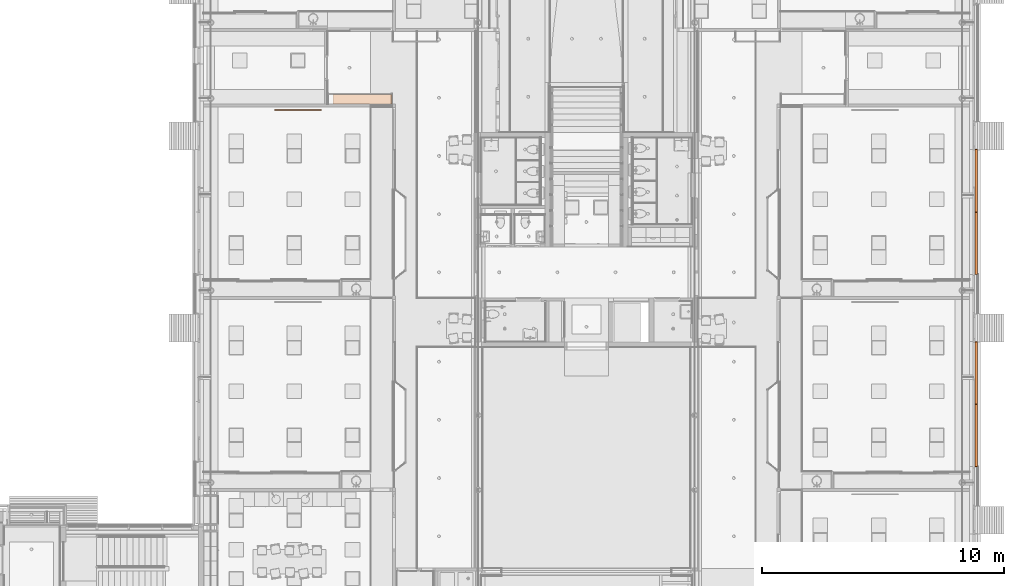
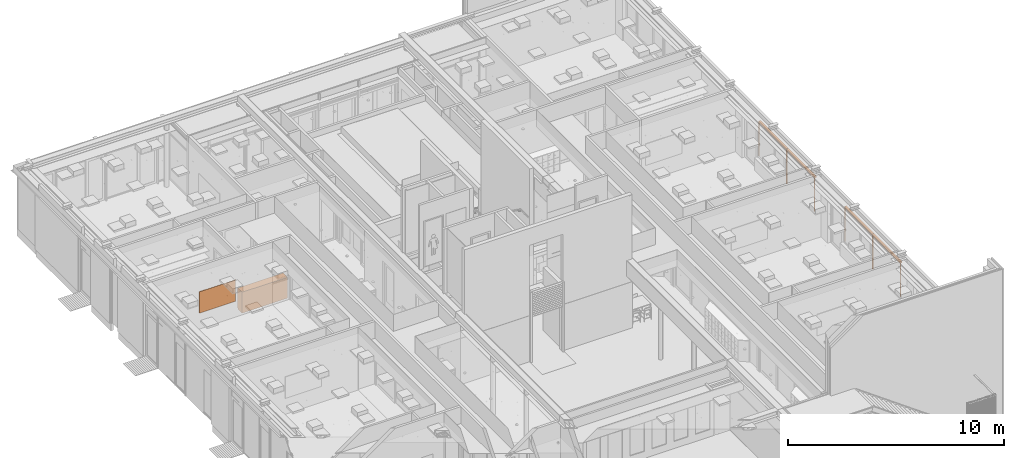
# One storey, part 335 of 347: 6 proxies.
"""IFC2X3 building model written with IfcOpenShell, lengths in millimetres."""

from ifc_helpers import new_model, entity, si_unit, converted_unit, derived_unit, money_unit, direction, frame, origin_with_axes, place, context, subcontext, project, spatial, open_shell, faceted_brep, surface_model, source, transform, mapped, type_object, type_shapes, element, save


model = new_model("IFC2X3")

# Units and contexts
model_context = context("Model", 3, precision=0.01, world=origin_with_axes(), true_north=direction((0.0, 1.0)))
plan_context = context("Plan", 3, precision=0.01, world=origin_with_axes(), true_north=direction((0.0, 1.0)))
body_context = subcontext(model_context, "Body", "Model", "MODEL_VIEW")
ifc_project = project(units=[si_unit("LENGTHUNIT", "METRE", prefix="MILLI"), si_unit("AREAUNIT", "SQUARE_METRE"), si_unit("VOLUMEUNIT", "CUBIC_METRE"), converted_unit("PLANEANGLEUNIT", "DEGREE", entity("IfcPlaneAngleMeasure", 0.0174532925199), si_unit("PLANEANGLEUNIT", "RADIAN"), dimensions=[0, 0, 0, 0, 0, 0, 0]), money_unit("EUR"), converted_unit("TIMEUNIT", "Year", entity("IfcTimeMeasure", 31556926.0), si_unit("TIMEUNIT", "SECOND"), dimensions=[0, 0, 1, 0, 0, 0, 0]), si_unit("MASSUNIT", "GRAM", prefix="KILO"), si_unit("THERMODYNAMICTEMPERATUREUNIT", "DEGREE_CELSIUS"), si_unit("LUMINOUSINTENSITYUNIT", "LUMEN"), si_unit("ENERGYUNIT", "JOULE", prefix="MEGA"), derived_unit("THERMALCONDUCTANCEUNIT", [(si_unit("POWERUNIT", "WATT"), 1), (si_unit("LENGTHUNIT", "METRE"), -1), (si_unit("THERMODYNAMICTEMPERATUREUNIT", "KELVIN"), -1)]), derived_unit("SPECIFICHEATCAPACITYUNIT", [(si_unit("ENERGYUNIT", "JOULE"), 1), (si_unit("MASSUNIT", "GRAM", prefix="KILO"), -1), (si_unit("THERMODYNAMICTEMPERATUREUNIT", "KELVIN"), -1)]), derived_unit("MASSDENSITYUNIT", [(si_unit("MASSUNIT", "GRAM", prefix="KILO"), 1), (si_unit("VOLUMEUNIT", "CUBIC_METRE"), -1)])], contexts=[model_context, plan_context])

# Site, building, storey
site_placement = place(None, origin_with_axes())
site = spatial("IfcSite", under=ifc_project, at=site_placement, Name="Site", CompositionType="ELEMENT")
building_placement = place(site_placement, origin_with_axes())
building = spatial("IfcBuilding", under=site, at=building_placement, Name="Naam gebouw", CompositionType="ELEMENT")
storey_placement = place(building_placement, origin_with_axes())
storey = spatial("IfcBuildingStorey", under=building, at=storey_placement, Name="begane grond", CompositionType="ELEMENT", Elevation=0.0)

# Proxies
building_element_proxy_type_1 = type_object("IfcBuildingElementProxyType", Name="Digitaal bord 25", PredefinedType="NOTDEFINED")
shared_shape_1 = source(origin_with_axes(), body_context, "Body", "SurfaceModel", [
    faceted_brep([(0.0, 0.0, 1000.0), (1930.0, 0.0, 1000.0), (1930.0, -30.0, 1000.0), (0.0, -30.0, 1000.0), (0.0, 0.0, 2185.0), (4.3933982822, 0.0, 2195.60660172), (15.0, 0.0, 2200.0), (1915.0, 0.0, 2200.0), (1925.60660172, 0.0, 2195.60660172), (1930.0, 0.0, 2185.0), (20.0, 0.0, 1025.0), (1910.0, 0.0, 1025.0), (1910.0, 0.0, 2180.0), (20.0, 0.0, 2180.0), (1930.0, -30.0, 2185.0), (1925.60660172, -30.0, 2195.60660172), (1915.0, -30.0, 2200.0), (15.0, -30.0, 2200.0), (4.3933982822, -30.0, 2195.60660172), (0.0, -30.0, 2185.0), (20.0, -30.0, 1025.0), (20.0, -30.0, 2180.0), (1910.0, -30.0, 2180.0), (1910.0, -30.0, 1025.0)], [[[0, 1, 2, 3]], [[0, 4, 5, 6, 7, 8, 9, 1], [10, 11, 12, 13]], [[1, 9, 14, 2]], [[3, 2, 14, 15, 16, 17, 18, 19], [20, 21, 22, 23]], [[4, 0, 3, 19]], [[5, 4, 19, 18]], [[6, 5, 18, 17]], [[7, 6, 17, 16]], [[8, 7, 16, 15]], [[9, 8, 15, 14]], [[11, 10, 20, 23]], [[12, 11, 23, 22]], [[13, 12, 22, 21]], [[10, 13, 21, 20]]]),
    faceted_brep([(20.0, 0.0, 1025.0), (1910.0, 0.0, 1025.0), (1910.0, -29.0, 1025.0), (20.0, -29.0, 1025.0), (20.0, 0.0, 2180.0), (1910.0, 0.0, 2180.0), (1910.0, -29.0, 2180.0), (20.0, -29.0, 2180.0)], [[[0, 1, 2, 3]], [[0, 4, 5, 1]], [[1, 5, 6, 2]], [[3, 2, 6, 7]], [[4, 0, 3, 7]], [[5, 4, 7, 6]]]),
    surface_model("IfcShellBasedSurfaceModel", [(20.0, -30.0, 1025.0), (1910.0, -30.0, 1025.0), (1910.0, -30.0, 2180.0), (20.0, -30.0, 2180.0)], [open_shell([[[0, 1, 2, 3]]])]),
])
type_shapes(building_element_proxy_type_1, [shared_shape_1])
proxy_1_placement = place(storey_placement, frame((27212.556147, 35737.5, 0.0), z_axis=(0.0, 0.0, 1.0), x_axis=(1.0, 0.0, 0.0)))
element("IfcBuildingElementProxy", 1, at=proxy_1_placement, inside=storey, type_object=building_element_proxy_type_1, Name="82_DiGi-bord", context=body_context, shape_type="MappedRepresentation", body=[
    mapped(shared_shape_1, transform((0.0, 0.0, 0.0))),
])
building_element_proxy_type_2 = type_object("IfcBuildingElementProxyType", Name="Screen 25 KM", PredefinedType="NOTDEFINED")
shared_shape_2 = source(origin_with_axes(), body_context, "Body", "SurfaceModel", [
    faceted_brep([(0.0, 0.0, 0.0), (0.0, 0.0, 1885.0), (0.0, -28.0, 1885.0), (0.0, -28.0, 0.0), (-38.0, 0.0, 0.0), (-38.0, 0.0, 1885.0), (-38.0, -4.0, 1885.0), (-35.0, -4.0, 1885.0), (-35.0, -3.0, 1885.0), (-3.0, -3.0, 1885.0), (-3.0, -25.0, 1885.0), (-35.0, -25.0, 1885.0), (-35.0, -24.0, 1885.0), (-38.0, -24.0, 1885.0), (-38.0, -28.0, 1885.0), (-38.0, -28.0, 0.0), (-38.0, -24.0, 0.0), (-35.0, -24.0, 0.0), (-35.0, -25.0, 0.0), (-3.0, -25.0, 0.0), (-3.0, -3.0, 0.0), (-35.0, -3.0, 0.0), (-35.0, -4.0, 0.0), (-38.0, -4.0, 0.0)], [[[0, 1, 2, 3]], [[4, 5, 1, 0]], [[1, 5, 6, 7, 8, 9, 10, 11, 12, 13, 14, 2]], [[3, 2, 14, 15]], [[0, 3, 15, 16, 17, 18, 19, 20, 21, 22, 23, 4]], [[23, 6, 5, 4]], [[22, 7, 6, 23]], [[21, 8, 7, 22]], [[20, 9, 8, 21]], [[19, 10, 9, 20]], [[18, 11, 10, 19]], [[17, 12, 11, 18]], [[16, 13, 12, 17]], [[15, 14, 13, 16]]]),
    faceted_brep([(-2582.00000015, 0.0, 0.0), (-2582.00000015, -28.0, 0.0), (-2582.00000015, -28.0, 1885.0), (-2582.00000015, 0.0, 1885.0), (-2544.00000015, 0.0, 0.0), (-2544.00000015, -4.0, 0.0), (-2547.00000015, -4.0, 0.0), (-2547.00000015, -3.0, 0.0), (-2579.00000015, -3.0, 0.0), (-2579.00000015, -25.0, 0.0), (-2547.00000015, -25.0, 0.0), (-2547.00000015, -24.0, 0.0), (-2544.00000015, -24.0, 0.0), (-2544.00000015, -28.0, 0.0), (-2544.00000015, -28.0, 1885.0), (-2544.00000015, -24.0, 1885.0), (-2547.00000015, -24.0, 1885.0), (-2547.00000015, -25.0, 1885.0), (-2579.00000015, -25.0, 1885.0), (-2579.00000015, -3.0, 1885.0), (-2547.00000015, -3.0, 1885.0), (-2547.00000015, -4.0, 1885.0), (-2544.00000015, -4.0, 1885.0), (-2544.00000015, 0.0, 1885.0)], [[[0, 1, 2, 3]], [[0, 4, 5, 6, 7, 8, 9, 10, 11, 12, 13, 1]], [[1, 13, 14, 2]], [[3, 2, 14, 15, 16, 17, 18, 19, 20, 21, 22, 23]], [[4, 0, 3, 23]], [[5, 4, 23, 22]], [[6, 5, 22, 21]], [[7, 6, 21, 20]], [[8, 7, 20, 19]], [[9, 8, 19, 18]], [[10, 9, 18, 17]], [[11, 10, 17, 16]], [[12, 11, 16, 15]], [[13, 12, 15, 14]]]),
    surface_model("IfcShellBasedSurfaceModel", [(0.0, 0.0, 1980.0), (0.0, -95.0, 1980.0), (0.0, -95.0, 1885.0), (0.0, 0.0, 1885.0)], [open_shell([[[0, 1, 2, 3]]])]),
    surface_model("IfcShellBasedSurfaceModel", [(-0.01, 0.0, 1980.0), (-2581.99000015, 0.0, 1980.0), (-2581.99000015, -95.0, 1980.0), (-0.00999999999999, -95.0, 1980.0), (-0.01, 0.0, 1888.0), (-2581.99000015, 0.0, 1888.0), (-2581.99000015, -6.0, 1888.0), (-2581.99000015, -6.0, 1891.0), (-2581.99000015, -3.0, 1891.0), (-2581.99000015, -3.0, 1977.0), (-2581.99000015, -92.0, 1977.0), (-2581.99000015, -92.0, 1888.0), (-2581.99000015, -28.0, 1888.0), (-2581.99000015, -28.0, 1882.0), (-2581.99000015, -31.0, 1882.0), (-2581.99000015, -31.0, 1885.0), (-2581.99000015, -95.0, 1885.0), (-0.01, -95.0, 1885.0), (-0.01, -31.0, 1885.0), (-0.01, -31.0, 1882.0), (-0.01, -28.0, 1882.0), (-0.01, -28.0, 1888.0), (-0.01, -92.0, 1888.0), (-0.00999999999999, -92.0, 1977.0), (-0.01, -3.0, 1977.0), (-0.01, -3.0, 1891.0), (-0.01, -6.0, 1891.0), (-0.01, -6.0, 1888.0)], [open_shell([[[0, 1, 2, 3]], [[4, 5, 1, 0]], [[1, 5, 6, 7, 8, 9, 10, 11, 12, 13, 14, 15, 16, 2]], [[3, 2, 16, 17]], [[0, 3, 17, 18, 19, 20, 21, 22, 23, 24, 25, 26, 27, 4]], [[19, 14, 13, 20]], [[18, 15, 14, 19]], [[17, 16, 15, 18]]])]),
    surface_model("IfcShellBasedSurfaceModel", [(-2581.99000015, 0.0, 1980.0), (-2581.99000015, -95.0, 1980.0), (-2581.99000015, -95.0, 1885.0), (-2581.99000015, 0.0, 1885.0)], [open_shell([[[0, 1, 2, 3]]])]),
])
for number, where, z_axis, x_axis, name in (
    (2, (56108.0000442, 34094.5, 720.0), (0.0, 0.0, 1.0), (0.0, 1.0, 0.0), "_78 garderobe"),
    (3, (56108.0000442, 26169.5, 720.0), (0.0, 0.0, 1.0), (0.0, 1.0, 0.0), "_78 garderobe"),
):
    element("IfcBuildingElementProxy", number, at=place(storey_placement, frame(where, z_axis=z_axis, x_axis=x_axis)), inside=storey, type_object=building_element_proxy_type_2, Name=name, context=body_context, shape_type="MappedRepresentation", body=[
        mapped(shared_shape_2, transform((0.0, 0.0, 0.0))),
    ])
shared_shape_3 = source(origin_with_axes(), body_context, "Body", "SurfaceModel", [
    faceted_brep([(0.0, 0.0, 0.0), (0.0, 0.0, 1885.0), (0.0, -28.0, 1885.0), (0.0, -28.0, 0.0), (-38.0, 0.0, 0.0), (-38.0, 0.0, 1885.0), (-38.0, -4.0, 1885.0), (-35.0, -4.0, 1885.0), (-35.0, -3.0, 1885.0), (-3.0, -3.0, 1885.0), (-3.0, -25.0, 1885.0), (-35.0, -25.0, 1885.0), (-35.0, -24.0, 1885.0), (-38.0, -24.0, 1885.0), (-38.0, -28.0, 1885.0), (-38.0, -28.0, 0.0), (-38.0, -24.0, 0.0), (-35.0, -24.0, 0.0), (-35.0, -25.0, 0.0), (-3.0, -25.0, 0.0), (-3.0, -3.0, 0.0), (-35.0, -3.0, 0.0), (-35.0, -4.0, 0.0), (-38.0, -4.0, 0.0)], [[[0, 1, 2, 3]], [[4, 5, 1, 0]], [[1, 5, 6, 7, 8, 9, 10, 11, 12, 13, 14, 2]], [[3, 2, 14, 15]], [[0, 3, 15, 16, 17, 18, 19, 20, 21, 22, 23, 4]], [[23, 6, 5, 4]], [[22, 7, 6, 23]], [[21, 8, 7, 22]], [[20, 9, 8, 21]], [[19, 10, 9, 20]], [[18, 11, 10, 19]], [[17, 12, 11, 18]], [[16, 13, 12, 17]], [[15, 14, 13, 16]]]),
    faceted_brep([(-2575.0, 0.0, 0.0), (-2575.0, -28.0, 0.0), (-2575.0, -28.0, 1885.0), (-2575.0, 0.0, 1885.0), (-2537.0, 0.0, 0.0), (-2537.0, -4.0, 0.0), (-2540.0, -4.0, 0.0), (-2540.0, -3.0, 0.0), (-2572.0, -3.0, 0.0), (-2572.0, -25.0, 0.0), (-2540.0, -25.0, 0.0), (-2540.0, -24.0, 0.0), (-2537.0, -24.0, 0.0), (-2537.0, -28.0, 0.0), (-2537.0, -28.0, 1885.0), (-2537.0, -24.0, 1885.0), (-2540.0, -24.0, 1885.0), (-2540.0, -25.0, 1885.0), (-2572.0, -25.0, 1885.0), (-2572.0, -3.0, 1885.0), (-2540.0, -3.0, 1885.0), (-2540.0, -4.0, 1885.0), (-2537.0, -4.0, 1885.0), (-2537.0, 0.0, 1885.0)], [[[0, 1, 2, 3]], [[0, 4, 5, 6, 7, 8, 9, 10, 11, 12, 13, 1]], [[1, 13, 14, 2]], [[3, 2, 14, 15, 16, 17, 18, 19, 20, 21, 22, 23]], [[4, 0, 3, 23]], [[5, 4, 23, 22]], [[6, 5, 22, 21]], [[7, 6, 21, 20]], [[8, 7, 20, 19]], [[9, 8, 19, 18]], [[10, 9, 18, 17]], [[11, 10, 17, 16]], [[12, 11, 16, 15]], [[13, 12, 15, 14]]]),
    surface_model("IfcShellBasedSurfaceModel", [(0.0, 0.0, 1980.0), (0.0, -95.0, 1980.0), (0.0, -95.0, 1885.0), (0.0, 0.0, 1885.0)], [open_shell([[[0, 1, 2, 3]]])]),
    surface_model("IfcShellBasedSurfaceModel", [(-0.01, 0.0, 1980.0), (-2574.99, 0.0, 1980.0), (-2574.99, -95.0, 1980.0), (-0.00999999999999, -95.0, 1980.0), (-0.01, 0.0, 1888.0), (-2574.99, 0.0, 1888.0), (-2574.99, -6.0, 1888.0), (-2574.99, -6.0, 1891.0), (-2574.99, -3.0, 1891.0), (-2574.99, -3.0, 1977.0), (-2574.99, -92.0, 1977.0), (-2574.99, -92.0, 1888.0), (-2574.99, -28.0, 1888.0), (-2574.99, -28.0, 1882.0), (-2574.99, -31.0, 1882.0), (-2574.99, -31.0, 1885.0), (-2574.99, -95.0, 1885.0), (-0.01, -95.0, 1885.0), (-0.01, -31.0, 1885.0), (-0.01, -31.0, 1882.0), (-0.01, -28.0, 1882.0), (-0.01, -28.0, 1888.0), (-0.01, -92.0, 1888.0), (-0.00999999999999, -92.0, 1977.0), (-0.01, -3.0, 1977.0), (-0.01, -3.0, 1891.0), (-0.01, -6.0, 1891.0), (-0.01, -6.0, 1888.0)], [open_shell([[[0, 1, 2, 3]], [[4, 5, 1, 0]], [[1, 5, 6, 7, 8, 9, 10, 11, 12, 13, 14, 15, 16, 2]], [[3, 2, 16, 17]], [[0, 3, 17, 18, 19, 20, 21, 22, 23, 24, 25, 26, 27, 4]], [[19, 14, 13, 20]], [[18, 15, 14, 19]], [[17, 16, 15, 18]]])]),
    surface_model("IfcShellBasedSurfaceModel", [(-2574.99, 0.0, 1980.0), (-2574.99, -95.0, 1980.0), (-2574.99, -95.0, 1885.0), (-2574.99, 0.0, 1885.0)], [open_shell([[[0, 1, 2, 3]]])]),
])
type_shapes(building_element_proxy_type_2, [shared_shape_2, shared_shape_3])
for number, where, z_axis, x_axis, name in (
    (4, (56108.0000442, 31512.4999998, 720.0), (0.0, 0.0, 1.0), (0.0, 1.0, 0.0), "_78 garderobe"),
    (5, (56108.0000442, 23587.4999998, 720.0), (0.0, 0.0, 1.0), (0.0, 1.0, 0.0), "_78 garderobe"),
):
    element("IfcBuildingElementProxy", number, at=place(storey_placement, frame(where, z_axis=z_axis, x_axis=x_axis)), inside=storey, type_object=building_element_proxy_type_2, Name=name, context=body_context, shape_type="MappedRepresentation", body=[
        mapped(shared_shape_3, transform((0.0, 0.0, 0.0))),
    ])
building_element_proxy_type_3 = type_object("IfcBuildingElementProxyType", Name="Kast modulair 25", PredefinedType="NOTDEFINED")
shared_shape_4 = source(origin_with_axes(), body_context, "Body", "Brep", [
    faceted_brep([(0.0, 10.0, 0.0), (2418.0, 10.0, 0.0), (2418.0, 10.0, 50.0), (0.0, 10.0, 50.0), (0.0, 400.000014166, 0.0), (2418.0, 400.000014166, 0.0), (2418.0, 400.000014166, 50.0), (0.0, 400.000014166, 50.0)], [[[0, 1, 2, 3]], [[0, 4, 5, 1]], [[1, 5, 6, 2]], [[3, 2, 6, 7]], [[4, 0, 3, 7]], [[5, 4, 7, 6]]]),
    faceted_brep([(18.0, 400.000014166, 68.0), (2400.0, 400.000014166, 68.0), (2400.0, 382.000014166, 68.0), (18.0, 382.000014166, 68.0), (18.0, 400.000014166, 1160.0), (2400.0, 400.000014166, 1160.0), (2400.0, 400.000014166, 790.0), (2400.0, 400.000014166, 420.0), (2400.0, 382.000014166, 420.0), (2400.0, 382.000014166, 790.0), (2400.0, 382.000014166, 1160.0), (18.0, 382.000014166, 1160.0)], [[[0, 1, 2, 3]], [[0, 4, 5, 6, 7, 1]], [[1, 7, 8, 2]], [[3, 2, 8, 9, 10, 11]], [[4, 0, 3, 11]], [[5, 4, 11, 10]], [[6, 5, 10, 9]], [[7, 6, 9, 8]]]),
    faceted_brep([(2418.0, 0.0, 50.0), (0.0, 0.0, 50.0), (0.0, 400.000014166, 50.0), (2418.0, 400.000014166, 50.0), (2418.0, 0.0, 68.0), (0.0, 0.0, 68.0), (0.0, 400.000014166, 68.0), (2418.0, 400.000014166, 68.0)], [[[0, 1, 2, 3]], [[1, 0, 4, 5]], [[2, 1, 5, 6]], [[3, 2, 6, 7]], [[0, 3, 7, 4]], [[5, 4, 7, 6]]]),
    faceted_brep([(18.0, 0.0, 68.0), (0.0, 0.0, 68.0), (0.0, 400.000014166, 68.0), (18.0, 400.000014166, 68.0), (18.0, 0.0, 420.0), (0.0, 0.0, 420.0), (0.0, 400.000014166, 420.0), (18.0, 400.000014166, 420.0)], [[[0, 1, 2, 3]], [[1, 0, 4, 5]], [[2, 1, 5, 6]], [[3, 2, 6, 7]], [[0, 3, 7, 4]], [[5, 4, 7, 6]]]),
    faceted_brep([(318.0, 0.0, 68.0), (300.0, 0.0, 68.0), (300.0, 382.000014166, 68.0), (318.0, 382.000014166, 68.0), (318.0, 0.0, 420.0), (300.0, 0.0, 420.0), (300.0, 382.000014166, 420.0), (318.0, 382.000014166, 420.0)], [[[0, 1, 2, 3]], [[1, 0, 4, 5]], [[2, 1, 5, 6]], [[3, 2, 6, 7]], [[0, 3, 7, 4]], [[5, 4, 7, 6]]]),
    faceted_brep([(618.0, 0.0, 68.0), (600.0, 0.0, 68.0), (600.0, 382.000014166, 68.0), (618.0, 382.000014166, 68.0), (618.0, 0.0, 420.0), (600.0, 0.0, 420.0), (600.0, 382.000014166, 420.0), (618.0, 382.000014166, 420.0)], [[[0, 1, 2, 3]], [[1, 0, 4, 5]], [[2, 1, 5, 6]], [[3, 2, 6, 7]], [[0, 3, 7, 4]], [[5, 4, 7, 6]]]),
    faceted_brep([(918.0, 0.0, 68.0), (900.0, 0.0, 68.0), (900.0, 382.000014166, 68.0), (918.0, 382.000014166, 68.0), (918.0, 0.0, 420.0), (900.0, 0.0, 420.0), (900.0, 382.000014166, 420.0), (918.0, 382.000014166, 420.0)], [[[0, 1, 2, 3]], [[1, 0, 4, 5]], [[2, 1, 5, 6]], [[3, 2, 6, 7]], [[0, 3, 7, 4]], [[5, 4, 7, 6]]]),
    faceted_brep([(1218.0, 0.0, 68.0), (1200.0, 0.0, 68.0), (1200.0, 382.000014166, 68.0), (1218.0, 382.000014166, 68.0), (1218.0, 0.0, 420.0), (1200.0, 0.0, 420.0), (1200.0, 382.000014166, 420.0), (1218.0, 382.000014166, 420.0)], [[[0, 1, 2, 3]], [[1, 0, 4, 5]], [[2, 1, 5, 6]], [[3, 2, 6, 7]], [[0, 3, 7, 4]], [[5, 4, 7, 6]]]),
    faceted_brep([(1518.0, 0.0, 68.0), (1500.0, 0.0, 68.0), (1500.0, 382.000014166, 68.0), (1518.0, 382.000014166, 68.0), (1518.0, 0.0, 420.0), (1500.0, 0.0, 420.0), (1500.0, 382.000014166, 420.0), (1518.0, 382.000014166, 420.0)], [[[0, 1, 2, 3]], [[1, 0, 4, 5]], [[2, 1, 5, 6]], [[3, 2, 6, 7]], [[0, 3, 7, 4]], [[5, 4, 7, 6]]]),
    faceted_brep([(1818.0, 0.0, 68.0), (1800.0, 0.0, 68.0), (1800.0, 382.000014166, 68.0), (1818.0, 382.000014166, 68.0), (1818.0, 0.0, 420.0), (1800.0, 0.0, 420.0), (1800.0, 382.000014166, 420.0), (1818.0, 382.000014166, 420.0)], [[[0, 1, 2, 3]], [[1, 0, 4, 5]], [[2, 1, 5, 6]], [[3, 2, 6, 7]], [[0, 3, 7, 4]], [[5, 4, 7, 6]]]),
    faceted_brep([(2118.0, 0.0, 68.0), (2100.0, 0.0, 68.0), (2100.0, 382.000014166, 68.0), (2118.0, 382.000014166, 68.0), (2118.0, 0.0, 420.0), (2100.0, 0.0, 420.0), (2100.0, 382.000014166, 420.0), (2118.0, 382.000014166, 420.0)], [[[0, 1, 2, 3]], [[1, 0, 4, 5]], [[2, 1, 5, 6]], [[3, 2, 6, 7]], [[0, 3, 7, 4]], [[5, 4, 7, 6]]]),
    faceted_brep([(2418.0, 0.0, 68.0), (2400.0, 0.0, 68.0), (2400.0, 400.000014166, 68.0), (2418.0, 400.000014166, 68.0), (2418.0, 0.0, 420.0), (2400.0, 0.0, 420.0), (2400.0, 400.000014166, 420.0), (2418.0, 400.000014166, 420.0)], [[[0, 1, 2, 3]], [[1, 0, 4, 5]], [[2, 1, 5, 6]], [[3, 2, 6, 7]], [[0, 3, 7, 4]], [[5, 4, 7, 6]]]),
    faceted_brep([(2400.0, 400.000014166, 420.0), (2400.0, 400.000014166, 438.0), (2418.0, 400.000014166, 438.0), (2418.0, 400.000014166, 420.0), (2400.0, 382.000014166, 438.0), (2400.0, 382.000014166, 420.0), (18.0, 382.000014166, 438.0), (18.0, 400.000014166, 438.0), (0.0, 400.000014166, 438.0), (0.0, 0.0, 438.0), (2418.0, 0.0, 438.0), (2418.0, 0.0, 420.0), (0.0, 0.0, 420.0), (0.0, 400.000014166, 420.0), (18.0, 400.000014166, 420.0), (18.0, 382.000014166, 420.0)], [[[0, 1, 2, 3]], [[4, 1, 0, 5]], [[6, 7, 8, 9, 10, 2, 1, 4]], [[3, 2, 10, 11]], [[5, 0, 3, 11, 12, 13, 14, 15]], [[6, 4, 5, 15]], [[14, 7, 6, 15]], [[7, 14, 13, 8]], [[12, 9, 8, 13]], [[11, 10, 9, 12]]]),
    faceted_brep([(2400.0, 400.000014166, 790.0), (2400.0, 400.000014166, 808.0), (2418.0, 400.000014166, 808.0), (2418.0, 400.000014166, 790.0), (2400.0, 382.000014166, 808.0), (2400.0, 382.000014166, 790.0), (18.0, 382.000014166, 808.0), (18.0, 400.000014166, 808.0), (0.0, 400.000014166, 808.0), (0.0, 0.0, 808.0), (2418.0, 0.0, 808.0), (2418.0, 0.0, 790.0), (0.0, 0.0, 790.0), (0.0, 400.000014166, 790.0), (18.0, 400.000014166, 790.0), (18.0, 382.000014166, 790.0)], [[[0, 1, 2, 3]], [[4, 1, 0, 5]], [[6, 7, 8, 9, 10, 2, 1, 4]], [[3, 2, 10, 11]], [[5, 0, 3, 11, 12, 13, 14, 15]], [[6, 4, 5, 15]], [[14, 7, 6, 15]], [[7, 14, 13, 8]], [[12, 9, 8, 13]], [[11, 10, 9, 12]]]),
    faceted_brep([(18.0, 0.0, 438.0), (0.0, 0.0, 438.0), (0.0, 400.000014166, 438.0), (18.0, 400.000014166, 438.0), (18.0, 0.0, 790.0), (0.0, 0.0, 790.0), (0.0, 400.000014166, 790.0), (18.0, 400.000014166, 790.0)], [[[0, 1, 2, 3]], [[1, 0, 4, 5]], [[2, 1, 5, 6]], [[3, 2, 6, 7]], [[0, 3, 7, 4]], [[5, 4, 7, 6]]]),
    faceted_brep([(318.0, 0.0, 438.0), (300.0, 0.0, 438.0), (300.0, 382.000014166, 438.0), (318.0, 382.000014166, 438.0), (318.0, 0.0, 790.0), (300.0, 0.0, 790.0), (300.0, 382.000014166, 790.0), (318.0, 382.000014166, 790.0)], [[[0, 1, 2, 3]], [[1, 0, 4, 5]], [[2, 1, 5, 6]], [[3, 2, 6, 7]], [[0, 3, 7, 4]], [[5, 4, 7, 6]]]),
    faceted_brep([(618.0, 0.0, 438.0), (600.0, 0.0, 438.0), (600.0, 382.000014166, 438.0), (618.0, 382.000014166, 438.0), (618.0, 0.0, 790.0), (600.0, 0.0, 790.0), (600.0, 382.000014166, 790.0), (618.0, 382.000014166, 790.0)], [[[0, 1, 2, 3]], [[1, 0, 4, 5]], [[2, 1, 5, 6]], [[3, 2, 6, 7]], [[0, 3, 7, 4]], [[5, 4, 7, 6]]]),
    faceted_brep([(918.0, 0.0, 438.0), (900.0, 0.0, 438.0), (900.0, 382.000014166, 438.0), (918.0, 382.000014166, 438.0), (918.0, 0.0, 790.0), (900.0, 0.0, 790.0), (900.0, 382.000014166, 790.0), (918.0, 382.000014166, 790.0)], [[[0, 1, 2, 3]], [[1, 0, 4, 5]], [[2, 1, 5, 6]], [[3, 2, 6, 7]], [[0, 3, 7, 4]], [[5, 4, 7, 6]]]),
    faceted_brep([(1218.0, 0.0, 438.0), (1200.0, 0.0, 438.0), (1200.0, 382.000014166, 438.0), (1218.0, 382.000014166, 438.0), (1218.0, 0.0, 790.0), (1200.0, 0.0, 790.0), (1200.0, 382.000014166, 790.0), (1218.0, 382.000014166, 790.0)], [[[0, 1, 2, 3]], [[1, 0, 4, 5]], [[2, 1, 5, 6]], [[3, 2, 6, 7]], [[0, 3, 7, 4]], [[5, 4, 7, 6]]]),
    faceted_brep([(1518.0, 0.0, 438.0), (1500.0, 0.0, 438.0), (1500.0, 382.000014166, 438.0), (1518.0, 382.000014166, 438.0), (1518.0, 0.0, 790.0), (1500.0, 0.0, 790.0), (1500.0, 382.000014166, 790.0), (1518.0, 382.000014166, 790.0)], [[[0, 1, 2, 3]], [[1, 0, 4, 5]], [[2, 1, 5, 6]], [[3, 2, 6, 7]], [[0, 3, 7, 4]], [[5, 4, 7, 6]]]),
    faceted_brep([(1818.0, 0.0, 438.0), (1800.0, 0.0, 438.0), (1800.0, 382.000014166, 438.0), (1818.0, 382.000014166, 438.0), (1818.0, 0.0, 790.0), (1800.0, 0.0, 790.0), (1800.0, 382.000014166, 790.0), (1818.0, 382.000014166, 790.0)], [[[0, 1, 2, 3]], [[1, 0, 4, 5]], [[2, 1, 5, 6]], [[3, 2, 6, 7]], [[0, 3, 7, 4]], [[5, 4, 7, 6]]]),
    faceted_brep([(2118.0, 0.0, 438.0), (2100.0, 0.0, 438.0), (2100.0, 382.000014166, 438.0), (2118.0, 382.000014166, 438.0), (2118.0, 0.0, 790.0), (2100.0, 0.0, 790.0), (2100.0, 382.000014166, 790.0), (2118.0, 382.000014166, 790.0)], [[[0, 1, 2, 3]], [[1, 0, 4, 5]], [[2, 1, 5, 6]], [[3, 2, 6, 7]], [[0, 3, 7, 4]], [[5, 4, 7, 6]]]),
    faceted_brep([(2418.0, 0.0, 438.0), (2400.0, 0.0, 438.0), (2400.0, 400.000014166, 438.0), (2418.0, 400.000014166, 438.0), (2418.0, 0.0, 790.0), (2400.0, 0.0, 790.0), (2400.0, 400.000014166, 790.0), (2418.0, 400.000014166, 790.0)], [[[0, 1, 2, 3]], [[1, 0, 4, 5]], [[2, 1, 5, 6]], [[3, 2, 6, 7]], [[0, 3, 7, 4]], [[5, 4, 7, 6]]]),
    faceted_brep([(0.0, 0.0, 1160.0), (2418.0, 0.0, 1160.0), (2418.0, 0.0, 1178.0), (0.0, 0.0, 1178.0), (0.0, 400.000014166, 1160.0), (2418.0, 400.000014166, 1160.0), (2418.0, 400.000014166, 1178.0), (0.0, 400.000014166, 1178.0)], [[[0, 1, 2, 3]], [[0, 4, 5, 1]], [[1, 5, 6, 2]], [[3, 2, 6, 7]], [[4, 0, 3, 7]], [[5, 4, 7, 6]]]),
    faceted_brep([(18.0, 0.0, 808.0), (0.0, 0.0, 808.0), (0.0, 400.000014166, 808.0), (18.0, 400.000014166, 808.0), (18.0, 0.0, 1160.0), (0.0, 0.0, 1160.0), (0.0, 400.000014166, 1160.0), (18.0, 400.000014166, 1160.0)], [[[0, 1, 2, 3]], [[1, 0, 4, 5]], [[2, 1, 5, 6]], [[3, 2, 6, 7]], [[0, 3, 7, 4]], [[5, 4, 7, 6]]]),
    faceted_brep([(318.0, 0.0, 808.0), (300.0, 0.0, 808.0), (300.0, 382.000014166, 808.0), (318.0, 382.000014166, 808.0), (318.0, 0.0, 1160.0), (300.0, 0.0, 1160.0), (300.0, 382.000014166, 1160.0), (318.0, 382.000014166, 1160.0)], [[[0, 1, 2, 3]], [[1, 0, 4, 5]], [[2, 1, 5, 6]], [[3, 2, 6, 7]], [[0, 3, 7, 4]], [[5, 4, 7, 6]]]),
    faceted_brep([(618.0, 0.0, 808.0), (600.0, 0.0, 808.0), (600.0, 382.000014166, 808.0), (618.0, 382.000014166, 808.0), (618.0, 0.0, 1160.0), (600.0, 0.0, 1160.0), (600.0, 382.000014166, 1160.0), (618.0, 382.000014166, 1160.0)], [[[0, 1, 2, 3]], [[1, 0, 4, 5]], [[2, 1, 5, 6]], [[3, 2, 6, 7]], [[0, 3, 7, 4]], [[5, 4, 7, 6]]]),
    faceted_brep([(918.0, 0.0, 808.0), (900.0, 0.0, 808.0), (900.0, 382.000014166, 808.0), (918.0, 382.000014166, 808.0), (918.0, 0.0, 1160.0), (900.0, 0.0, 1160.0), (900.0, 382.000014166, 1160.0), (918.0, 382.000014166, 1160.0)], [[[0, 1, 2, 3]], [[1, 0, 4, 5]], [[2, 1, 5, 6]], [[3, 2, 6, 7]], [[0, 3, 7, 4]], [[5, 4, 7, 6]]]),
    faceted_brep([(1218.0, 0.0, 808.0), (1200.0, 0.0, 808.0), (1200.0, 382.000014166, 808.0), (1218.0, 382.000014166, 808.0), (1218.0, 0.0, 1160.0), (1200.0, 0.0, 1160.0), (1200.0, 382.000014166, 1160.0), (1218.0, 382.000014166, 1160.0)], [[[0, 1, 2, 3]], [[1, 0, 4, 5]], [[2, 1, 5, 6]], [[3, 2, 6, 7]], [[0, 3, 7, 4]], [[5, 4, 7, 6]]]),
    faceted_brep([(1518.0, 0.0, 808.0), (1500.0, 0.0, 808.0), (1500.0, 382.000014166, 808.0), (1518.0, 382.000014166, 808.0), (1518.0, 0.0, 1160.0), (1500.0, 0.0, 1160.0), (1500.0, 382.000014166, 1160.0), (1518.0, 382.000014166, 1160.0)], [[[0, 1, 2, 3]], [[1, 0, 4, 5]], [[2, 1, 5, 6]], [[3, 2, 6, 7]], [[0, 3, 7, 4]], [[5, 4, 7, 6]]]),
    faceted_brep([(1818.0, 0.0, 808.0), (1800.0, 0.0, 808.0), (1800.0, 382.000014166, 808.0), (1818.0, 382.000014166, 808.0), (1818.0, 0.0, 1160.0), (1800.0, 0.0, 1160.0), (1800.0, 382.000014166, 1160.0), (1818.0, 382.000014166, 1160.0)], [[[0, 1, 2, 3]], [[1, 0, 4, 5]], [[2, 1, 5, 6]], [[3, 2, 6, 7]], [[0, 3, 7, 4]], [[5, 4, 7, 6]]]),
    faceted_brep([(2118.0, 0.0, 808.0), (2100.0, 0.0, 808.0), (2100.0, 382.000014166, 808.0), (2118.0, 382.000014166, 808.0), (2118.0, 0.0, 1160.0), (2100.0, 0.0, 1160.0), (2100.0, 382.000014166, 1160.0), (2118.0, 382.000014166, 1160.0)], [[[0, 1, 2, 3]], [[1, 0, 4, 5]], [[2, 1, 5, 6]], [[3, 2, 6, 7]], [[0, 3, 7, 4]], [[5, 4, 7, 6]]]),
    faceted_brep([(2418.0, 0.0, 808.0), (2400.0, 0.0, 808.0), (2400.0, 400.000014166, 808.0), (2418.0, 400.000014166, 808.0), (2418.0, 0.0, 1160.0), (2400.0, 0.0, 1160.0), (2400.0, 400.000014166, 1160.0), (2418.0, 400.000014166, 1160.0)], [[[0, 1, 2, 3]], [[1, 0, 4, 5]], [[2, 1, 5, 6]], [[3, 2, 6, 7]], [[0, 3, 7, 4]], [[5, 4, 7, 6]]]),
])
type_shapes(building_element_proxy_type_3, [shared_shape_4])
proxy_2_placement = place(storey_placement, frame((32045.9999977, 36362.5000301, 0.0), z_axis=(0.0, 0.0, 1.0), x_axis=(-1.0, 0.0, 0.0)))
element("IfcBuildingElementProxy", 6, at=proxy_2_placement, inside=storey, type_object=building_element_proxy_type_3, Name="72_72 garderobe", context=body_context, shape_type="MappedRepresentation", body=[
    mapped(shared_shape_4, transform((0.0, 0.0, 0.0))),
])

save(model, "model.ifc")
